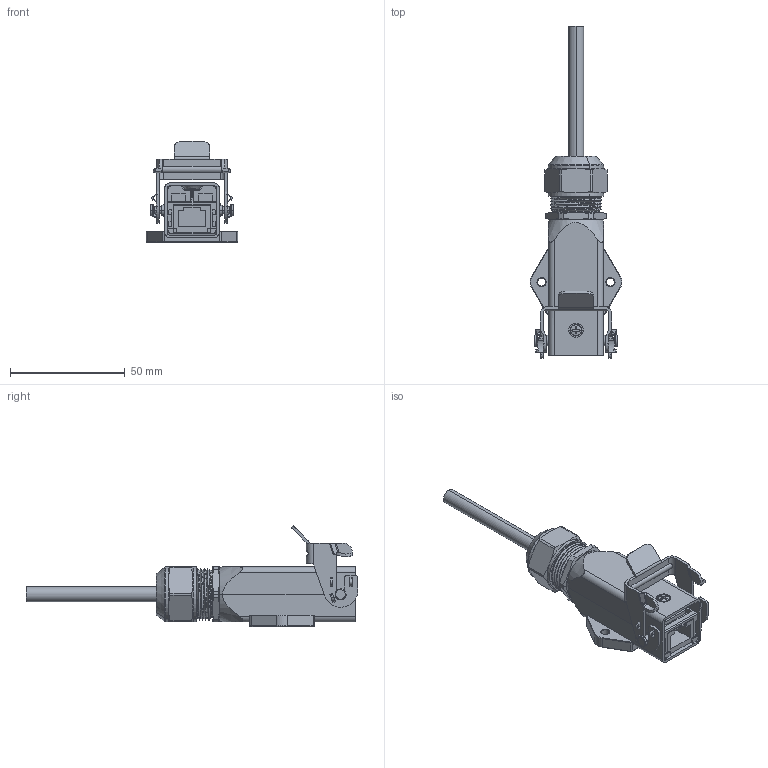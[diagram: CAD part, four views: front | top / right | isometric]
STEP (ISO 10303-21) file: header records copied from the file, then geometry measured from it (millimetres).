
FILE_DESCRIPTION (( 'STEP AP203' ), '1' );
FILE_NAME ('9452151108 RJ45面板底座（扣手式）1.STEP', '2024-12-23T05:17:15', ( 'L' ), ( '' ), 'SwSTEP 2.0', 'SolidWorks 2019', '' );
FILE_SCHEMA (( 'CONFIG_CONTROL_DESIGN' ));
Length unit declared in the file: millimetre
Products named in the file (1): 9452151108 RJ45面板底座（扣手式）1
Bounding box: 40 x 144.68 x 44.07 mm (x, y, z)
Volume: 37160.5 mm3; surface area: 35160.7 mm2
Topology: 10 solids, 12 shells, 1411 faces, 3717 edges, 2336 vertices
Faces by surface type: plane 672, cylinder 421, cone 130, torus 96, bspline 90, sphere 2
Entity records: 56973 total; most frequent: CARTESIAN_POINT 22872, ORIENTED_EDGE 7434, DIRECTION 6704, EDGE_CURVE 3717, AXIS2_PLACEMENT_3D 2376, VERTEX_POINT 2336, VECTOR 1952, LINE 1952
